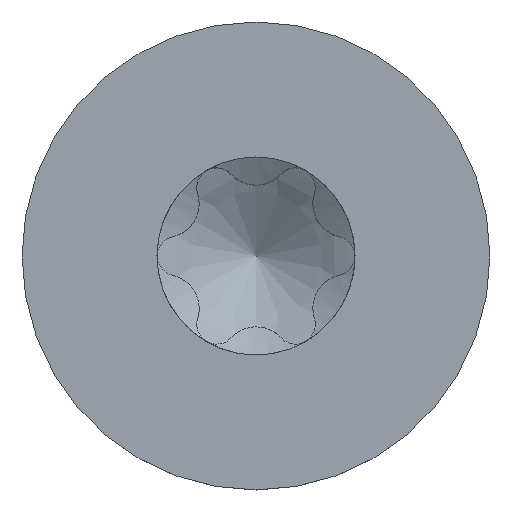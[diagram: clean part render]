
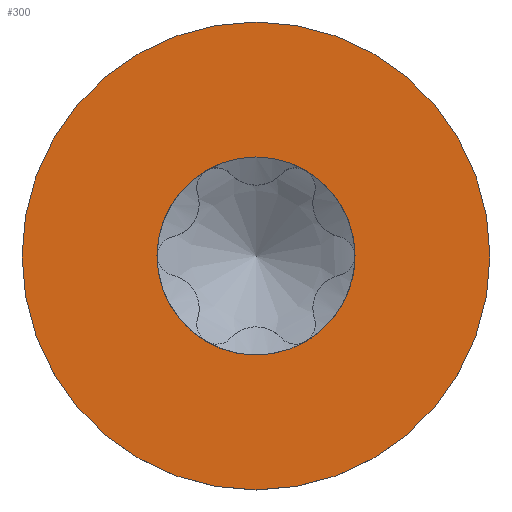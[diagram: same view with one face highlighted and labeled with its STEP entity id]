
A CAD part, top view. The second image highlights one B-rep face of the part: STEP entity #300.
In plain terms, the highlighted planar face has unit normal (0, 0, 1).
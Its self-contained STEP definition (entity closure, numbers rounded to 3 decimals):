
#273=PLANE('',#1476);
#280=FACE_BOUND('',#486,.T.);
#281=FACE_BOUND('',#487,.T.);
#300=ADVANCED_FACE('',(#280,#281),#273,.F.);
#486=EDGE_LOOP('',(#754));
#487=EDGE_LOOP('',(#755));
#754=ORIENTED_EDGE('',*,*,#1290,.F.);
#755=ORIENTED_EDGE('',*,*,#1291,.F.);
#1161=VERTEX_POINT('',#3284);
#1162=VERTEX_POINT('',#3286);
#1290=EDGE_CURVE('',#1161,#1161,#1456,.T.);
#1291=EDGE_CURVE('',#1162,#1162,#1457,.T.);
#1456=CIRCLE('',#1474,3.385);
#1457=CIRCLE('',#1475,8.);
#1474=AXIS2_PLACEMENT_3D('',#3283,#1524,#1525);
#1475=AXIS2_PLACEMENT_3D('',#3285,#1526,#1527);
#1476=AXIS2_PLACEMENT_3D('',#3287,#1528,#1529);
#1524=DIRECTION('',(0.,0.,1.));
#1525=DIRECTION('',(-1.,0.,0.));
#1526=DIRECTION('',(0.,0.,-1.));
#1527=DIRECTION('',(-1.,0.,0.));
#1528=DIRECTION('',(0.,0.,-1.));
#1529=DIRECTION('',(-1.,0.,0.));
#3283=CARTESIAN_POINT('',(0.,0.,5.815));
#3284=CARTESIAN_POINT('',(-3.385,0.,5.815));
#3285=CARTESIAN_POINT('',(0.,0.,5.815));
#3286=CARTESIAN_POINT('',(-8.,0.,5.815));
#3287=CARTESIAN_POINT('',(0.,0.,5.815));
